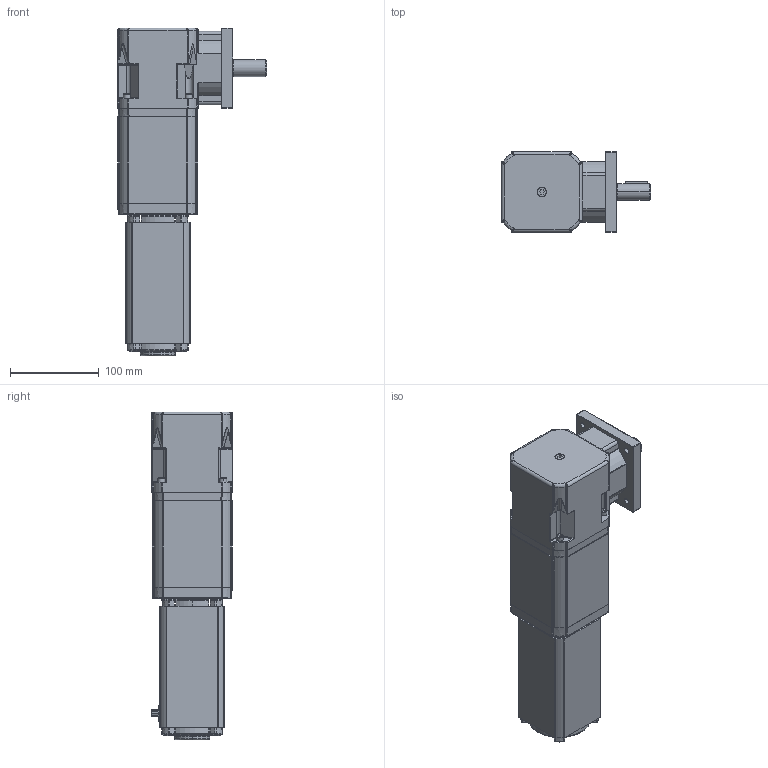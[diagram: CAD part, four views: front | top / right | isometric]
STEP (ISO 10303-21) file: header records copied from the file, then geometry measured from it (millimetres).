
FILE_DESCRIPTION (( 'STEP AP214' ), '1' );
FILE_NAME ('BL6560-RP7300_3S.STEP', '2013-08-28T18:09:17', ( '' ), ( '' ), 'SwSTEP 2.0', 'SolidWorks 2013', '' );
FILE_SCHEMA (( 'AUTOMOTIVE_DESIGN' ));
Length unit declared in the file: inch
Products named in the file (1): BL6560-RP7300_3S
Bounding box: 167.94 x 91.21 x 369.37 mm (x, y, z)
Surface area: 213431.7 mm2 (no closed solid volume)
Topology: 0 solids, 73 shells, 1256 faces, 4333 edges, 3024 vertices
Faces by surface type: cylinder 463, plane 355, cone 175, torus 142, bspline 87, sphere 34
Entity records: 69276 total; most frequent: CARTESIAN_POINT 16812, DIRECTION 7768, ORIENTED_EDGE 6755, EDGE_CURVE 4280, VERTEX_POINT 3024, AXIS2_PLACEMENT_3D 2946, VECTOR 1876, LINE 1876
